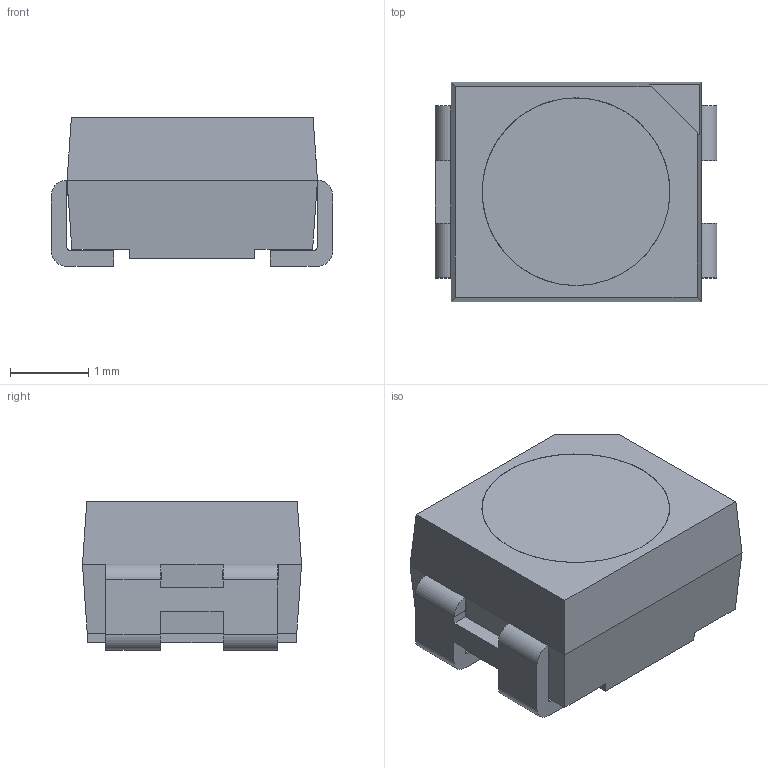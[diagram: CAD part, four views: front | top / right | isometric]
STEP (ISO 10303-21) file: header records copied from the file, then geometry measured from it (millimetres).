
FILE_DESCRIPTION(('STEP AP203'),'1');
FILE_NAME('C:/Users/chee-cheong.chan/Desktop/New folder/DWA-MKG-200919.stp','2019-09-20T08:15:19',(' '),(' '),'Spatial InterOp 3D',' ',' ');
FILE_SCHEMA(('CONFIG_CONTROL_DESIGN'));
Length unit declared in the file: millimetre
Products named in the file (1): 1
Bounding box: 3.6 x 2.8 x 1.9 mm (x, y, z)
Volume: 15.7 mm3; surface area: 60.6 mm2
Topology: 1 solids, 1 shells, 93 faces, 252 edges, 164 vertices
Faces by surface type: plane 77, cylinder 12, cone 4
Entity records: 2928 total; most frequent: CARTESIAN_POINT 520, ORIENTED_EDGE 504, DIRECTION 474, EDGE_CURVE 252, LINE 208, VECTOR 208, VERTEX_POINT 164, AXIS2_PLACEMENT_3D 133
